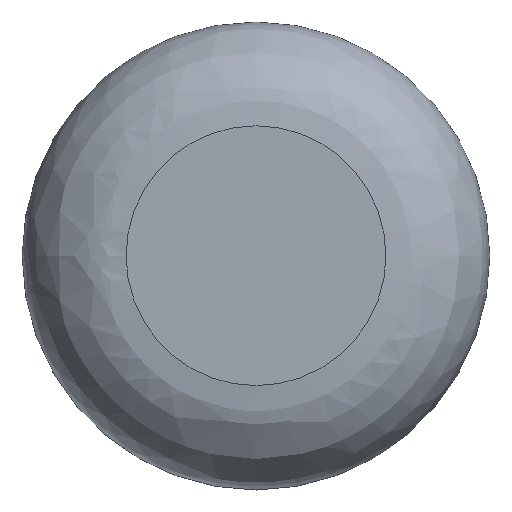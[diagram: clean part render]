
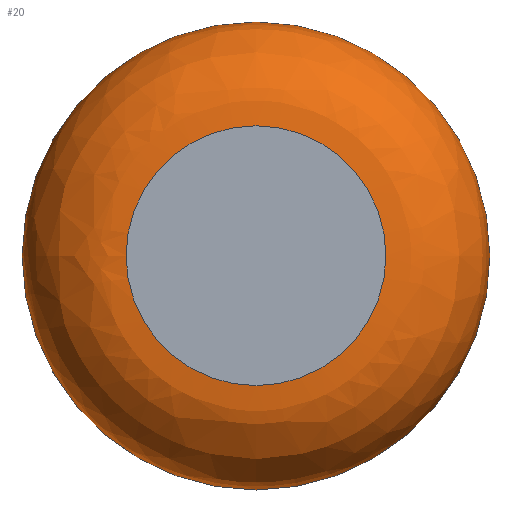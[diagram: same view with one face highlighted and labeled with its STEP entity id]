
A CAD part, top view. The second image highlights one B-rep face of the part: STEP entity #20.
In plain terms, the highlighted free-form (B-spline) face has degree [2, 2] with [9, 3] control points.
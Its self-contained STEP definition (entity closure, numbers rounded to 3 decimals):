
#20=ADVANCED_FACE('',(#26),#72,.T.);
#26=FACE_OUTER_BOUND('',#33,.T.);
#33=EDGE_LOOP('',(#46,#47,#48,#49));
#46=ORIENTED_EDGE('',*,*,#55,.T.);
#47=ORIENTED_EDGE('',*,*,#56,.T.);
#48=ORIENTED_EDGE('',*,*,#57,.F.);
#49=ORIENTED_EDGE('',*,*,#56,.F.);
#55=EDGE_CURVE('',#70,#70,#64,.T.);
#56=EDGE_CURVE('',#70,#71,#58,.T.);
#57=EDGE_CURVE('',#71,#71,#66,.T.);
#58=TRIMMED_CURVE($,#65,(#246),(#247),.T.,.CARTESIAN.);
#64=CIRCLE('',#174,2.25);
#65=CIRCLE('',#175,1.);
#66=CIRCLE('',#176,1.25);
#70=VERTEX_POINT('',#235);
#71=VERTEX_POINT('',#236);
#72=(
BOUNDED_SURFACE()
B_SPLINE_SURFACE(2,2,((#205,#206,#207),(#208,#209,#210),(#211,#212,#213),
(#214,#215,#216),(#217,#218,#219),(#220,#221,#222),(#223,#224,#225),(#226,
#227,#228),(#229,#230,#231)),.UNSPECIFIED.,.T.,.F.,.F.)
B_SPLINE_SURFACE_WITH_KNOTS((3,2,2,2,3),(3,3),(0.,1.963,3.927,
5.89,7.854),(0.,1.571),.UNSPECIFIED.)
GEOMETRIC_REPRESENTATION_ITEM()
RATIONAL_B_SPLINE_SURFACE(((1.,0.707,1.),(0.707,
0.5,0.707),(1.,0.707,1.),(0.707,
0.5,0.707),(1.,0.707,1.),(0.707,
0.5,0.707),(1.,0.707,1.),(0.707,
0.5,0.707),(1.,0.707,1.)))
REPRESENTATION_ITEM('')
SURFACE()
);
#174=AXIS2_PLACEMENT_3D($,#244,#191,#192);
#175=AXIS2_PLACEMENT_3D($,#245,#193,#194);
#176=AXIS2_PLACEMENT_3D($,#248,#195,#196);
#191=DIRECTION('',(0.,0.,1.));
#192=DIRECTION('',(-1.,0.,0.));
#193=DIRECTION('',(0.,1.,0.));
#194=DIRECTION('',(-1.,0.,0.));
#195=DIRECTION('',(0.,0.,1.));
#196=DIRECTION('',(-1.,0.,0.));
#205=CARTESIAN_POINT('',(-19.55,5.15,7.3));
#206=CARTESIAN_POINT('',(-19.55,5.15,8.3));
#207=CARTESIAN_POINT('',(-18.55,5.15,8.3));
#208=CARTESIAN_POINT('',(-19.55,2.9,7.3));
#209=CARTESIAN_POINT('',(-19.55,2.9,8.3));
#210=CARTESIAN_POINT('',(-18.55,3.9,8.3));
#211=CARTESIAN_POINT('',(-17.3,2.9,7.3));
#212=CARTESIAN_POINT('',(-17.3,2.9,8.3));
#213=CARTESIAN_POINT('',(-17.3,3.9,8.3));
#214=CARTESIAN_POINT('',(-15.05,2.9,7.3));
#215=CARTESIAN_POINT('',(-15.05,2.9,8.3));
#216=CARTESIAN_POINT('',(-16.05,3.9,8.3));
#217=CARTESIAN_POINT('',(-15.05,5.15,7.3));
#218=CARTESIAN_POINT('',(-15.05,5.15,8.3));
#219=CARTESIAN_POINT('',(-16.05,5.15,8.3));
#220=CARTESIAN_POINT('',(-15.05,7.4,7.3));
#221=CARTESIAN_POINT('',(-15.05,7.4,8.3));
#222=CARTESIAN_POINT('',(-16.05,6.4,8.3));
#223=CARTESIAN_POINT('',(-17.3,7.4,7.3));
#224=CARTESIAN_POINT('',(-17.3,7.4,8.3));
#225=CARTESIAN_POINT('',(-17.3,6.4,8.3));
#226=CARTESIAN_POINT('',(-19.55,7.4,7.3));
#227=CARTESIAN_POINT('',(-19.55,7.4,8.3));
#228=CARTESIAN_POINT('',(-18.55,6.4,8.3));
#229=CARTESIAN_POINT('',(-19.55,5.15,7.3));
#230=CARTESIAN_POINT('',(-19.55,5.15,8.3));
#231=CARTESIAN_POINT('',(-18.55,5.15,8.3));
#235=CARTESIAN_POINT('',(-19.55,5.15,7.3));
#236=CARTESIAN_POINT('',(-18.55,5.15,8.3));
#244=CARTESIAN_POINT('',(-17.3,5.15,7.3));
#245=CARTESIAN_POINT('',(-18.55,5.15,7.3));
#246=CARTESIAN_POINT('',(-19.55,5.15,7.3));
#247=CARTESIAN_POINT('',(-18.55,5.15,8.3));
#248=CARTESIAN_POINT('',(-17.3,5.15,8.3));
